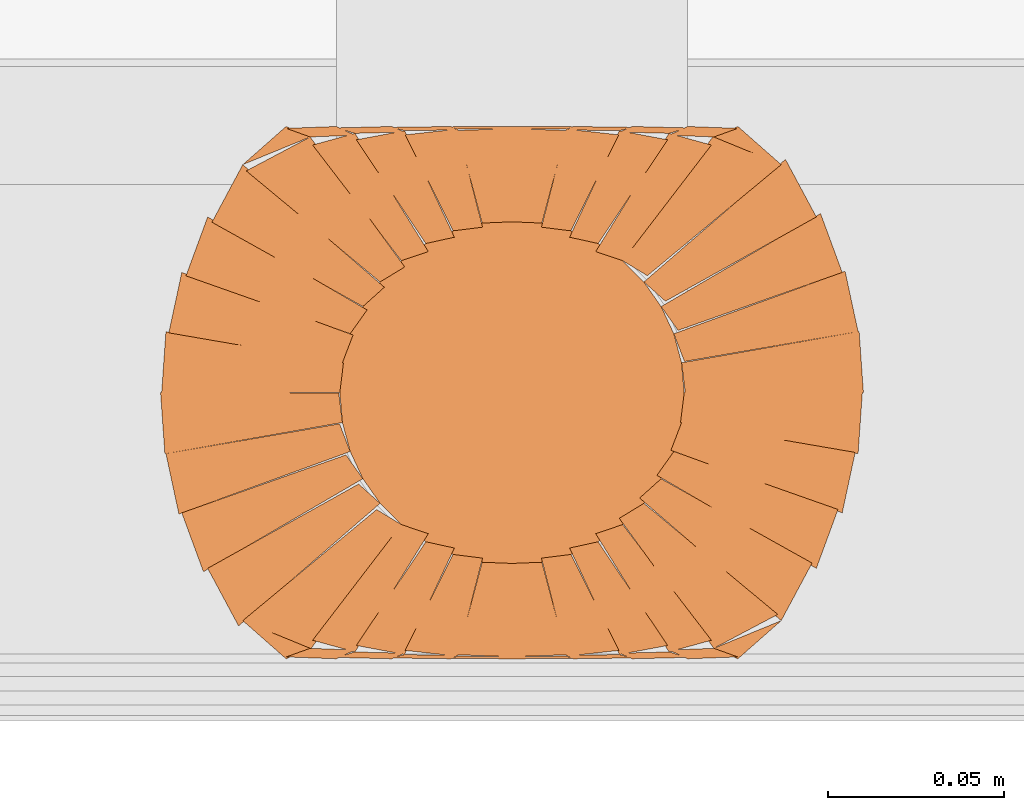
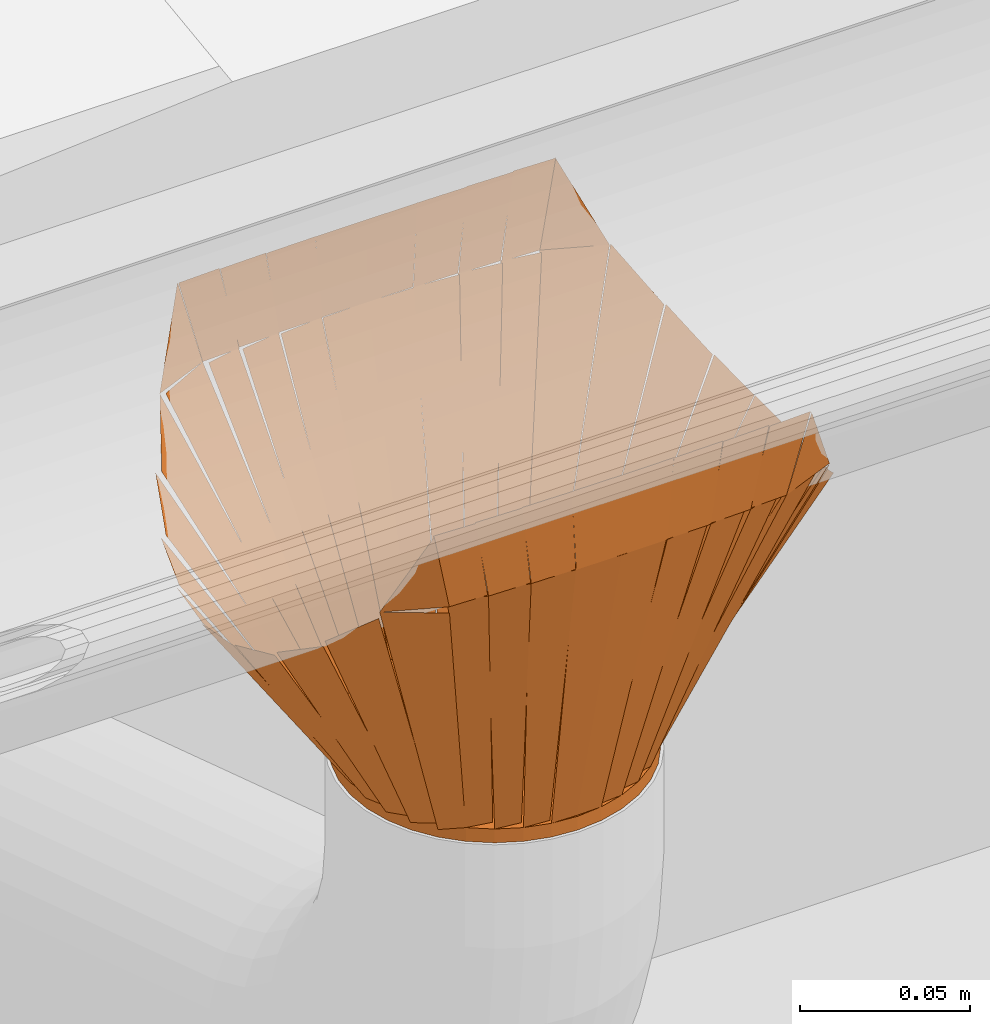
# One storey, part 23 of 43: 1 proxy.
"""IFC2X3 building model written with IfcOpenShell, lengths in millimetres."""

from ifc_helpers import new_model, si_unit, frame, origin_with_axes, place, context, project, spatial, faceted_brep, element, save


model = new_model("IFC2X3")

# Units and contexts
model_context = context("Model", 3, world=origin_with_axes())
ifc_project = project(units=[si_unit("LENGTHUNIT", "METRE", prefix="MILLI")], contexts=[model_context])

# Site, building, storey
site_placement = place(None, origin_with_axes())
site = spatial("IfcSite", under=ifc_project, at=site_placement, Name="Site", CompositionType="ELEMENT")
building_placement = place(site_placement, origin_with_axes())
building = spatial("IfcBuilding", under=site, at=building_placement, Name="?", CompositionType="ELEMENT")
storey_placement = place(building_placement, frame((0.0, 0.0, 5938.0), z_axis=(0.0, 0.0, 1.0), x_axis=(1.0, 0.0, 0.0)))
storey = spatial("IfcBuildingStorey", under=building, at=storey_placement, Name="Dachgeschoß", CompositionType="ELEMENT", Elevation=5938.0)

# Proxy
proxy_placement = place(None, origin_with_axes())
element("IfcBuildingElementProxy", 1, at=proxy_placement, inside=storey, Name="Dach04_Sump#002", ObjectType="sump", CompositionType="ELEMENT", context=model_context, shape_type="Brep", body=[
    faceted_brep([(156.0, -6994.009765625, 6505.79541015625), (206.699097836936, -6993.96774953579, 6580.94059993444), (205.480801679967, -7011.37456599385, 6582.73760906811), (154.954696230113, -7002.47654971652, 6505.99840097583), (155.255599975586, -7002.51904296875, 6505.79541015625), (204.66451477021, -7011.02260897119, 6583.29667832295), (200.969299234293, -7028.21224305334, 6588.73760764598), (152.228615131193, -7010.41680896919, 6506.3544809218), (153.044906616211, -7010.76904296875, 6505.79541015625), (199.767388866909, -7027.25000875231, 6589.59692785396), (193.602507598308, -7044.01004264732, 6599.73761331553), (148.233287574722, -7017.54800840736, 6506.65472506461), (149.435195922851, -7018.509765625, 6505.79541015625), (192.391752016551, -7042.50609625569, 6600.66615574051), (183.604397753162, -7058.88856568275, 6615.73760759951), (143.325449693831, -7024.00269628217, 6506.72395792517), (144.536193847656, -7025.5068359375, 6505.79541015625), (182.628120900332, -7057.11947794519, 6616.57824706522), (164.424893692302, -7066.76293508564, 6615.73760700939), (137.520320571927, -7029.77687912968, 6506.63605021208), (138.496597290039, -7031.54638671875, 6505.79541015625), (163.738444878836, -7064.47369281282, 6616.57445092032), (151.668697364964, -7067.78708786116, 6615.73761076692), (130.813544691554, -7034.15619170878, 6506.63225038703), (131.5, -7036.4453125, 6505.79541015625), (151.304500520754, -7065.96330484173, 6616.29008187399), (137.555199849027, -7068.54171179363, 6615.7376122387), (123.394801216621, -7038.2313055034, 6506.347879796), (123.759002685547, -7040.0546875, 6505.79541015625), (137.421128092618, -7067.37303624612, 6616.04372756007), (122.513302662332, -7069.00358695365, 6615.73760805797), (115.374727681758, -7041.09703670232, 6506.10152966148), (115.508796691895, -7042.265625, 6505.79541015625), (122.498250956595, -7068.60223884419, 6615.83467810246), (106.99999682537, -7069.1594249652, 6615.7376074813), (106.984951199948, -7042.60843885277, 6505.89248076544), (98.4912033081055, -7042.265625, 6505.79541015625), (107.015048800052, -7042.60843885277, 6505.89248076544), (107.00000317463, -7069.1594249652, 6615.7376074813), (91.5017490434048, -7068.60223884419, 6615.83467810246), (90.240997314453, -7040.0546875, 6505.79541015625), (98.6252723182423, -7041.09703670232, 6506.10152966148), (91.4866973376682, -7069.00358695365, 6615.73760805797), (76.5788719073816, -7067.37303624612, 6616.04372756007), (82.5000000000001, -7036.4453125, 6505.79541015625), (90.6051987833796, -7038.2313055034, 6506.347879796), (76.4448001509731, -7068.54171179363, 6615.73761223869), (62.6954994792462, -7065.96330484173, 6616.29008187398), (75.5034027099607, -7031.54638671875, 6505.79541015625), (83.1864553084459, -7034.15619170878, 6506.63225038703), (62.3313026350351, -7067.78708786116, 6615.73761076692), (50.2615551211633, -7064.47369281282, 6616.57445092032), (75.5034027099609, -7031.54638671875, 6505.79541015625), (48.5988295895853, -7068.53244267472, 6614.89696695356), (30.3956023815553, -7058.88898553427, 6615.73760700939), (68.4875294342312, -7027.27634352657, 6504.95477010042), (69.463798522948, -7025.5068359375, 6505.79541015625), (29.1848504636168, -7060.39270533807, 6614.80905983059), (20.3974962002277, -7044.01023591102, 6599.73760797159), (63.3540522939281, -7020.01390528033, 6504.86686238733), (64.564796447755, -7018.509765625, 6505.79541015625), (19.195576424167, -7044.97179986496, 6598.87829840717), (13.0306951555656, -7028.21176596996, 6588.7376129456), (59.7531774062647, -7011.7308001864, 6504.93609524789), (60.9551010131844, -7010.76904296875, 6505.79541015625), (12.2144108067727, -7028.56448226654, 6588.17853498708), (8.51920371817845, -7011.37494297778, 6582.73761153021), (57.9281083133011, -7002.87128188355, 6505.23633342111), (58.7444000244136, -7002.51904296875, 6505.79541015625), (8.21830083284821, -7011.41715820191, 6582.5346224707), (7.00000156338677, -6994.01024322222, 6580.73761121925), (57.6990993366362, -6994.0522587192, 6505.59242137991), (58.0, -6994.009765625, 6505.79541015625), (7.30089679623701, -6994.0517809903, 6580.94059459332), (8.51919943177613, -6976.64496540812, 6582.73760796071), (59.0452974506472, -6985.54308088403, 6505.99839671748), (58.7444000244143, -6985.50146484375, 6505.79541015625), (9.3355027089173, -6976.99780535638, 6583.29669568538), (13.030699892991, -6959.80816491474, 6588.7376124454), (61.7714030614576, -6977.60360535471, 6506.35449322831), (60.9551010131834, -6977.2509765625, 6505.79541015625), (14.2326431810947, -6960.77001649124, 6589.59694077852), (20.397401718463, -6944.00997522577, 6599.73761296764), (65.7666422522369, -6970.47201716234, 6506.65473829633), (64.564697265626, -6969.509765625, 6505.79541015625), (21.608126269, -6945.5134274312, 6600.66614947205), (30.3954982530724, -6929.13106388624, 6615.73761097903), (70.6745257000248, -6964.01682850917, 6506.72394876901), (69.4637985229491, -6962.51318359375, 6505.79541015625), (31.3717667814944, -6930.90061803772, 6616.578238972), (49.5749986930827, -6921.25708315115, 6615.737607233), (76.4796664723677, -6958.24311841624, 6506.63604189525), (75.5034027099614, -6956.4736328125, 6505.79541015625), (50.2614547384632, -6923.54633724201, 6616.5744549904), (62.3313025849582, -6920.23293151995, 6615.73761133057), (83.18645505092, -6953.86383842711, 6506.63225384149), (82.5, -6951.57470703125, 6505.79541015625), (62.6954994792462, -6922.05671468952, 6616.29008187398), (76.4448001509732, -6919.47830773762, 6615.7376122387), (90.6051987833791, -6949.78871402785, 6506.347879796), (90.2409973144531, -6947.96533203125, 6505.79541015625), (76.5788719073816, -6920.64698328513, 6616.04372756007), (91.4866973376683, -6919.0164325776, 6615.73760805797), (98.6252723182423, -6946.92298282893, 6506.10152966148), (98.4912033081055, -6945.75439453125, 6505.79541015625), (91.5017490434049, -6919.41778068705, 6615.83467810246), (107.00000317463, -6918.86059456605, 6615.7376074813), (107.015048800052, -6945.41158067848, 6505.89248076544), (115.508697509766, -6945.75439453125, 6505.79541015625), (106.984951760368, -6945.41158169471, 6505.89248102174), (106.999997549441, -6918.86059390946, 6615.73760773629), (122.498151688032, -6919.41778105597, 6615.83467859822), (123.759002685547, -6947.96533203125, 6505.79541015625), (115.37462895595, -6946.9229761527, 6506.10152780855), (122.513202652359, -6919.01643257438, 6615.73761216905), (137.421029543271, -6920.64697661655, 6616.04372982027), (131.5, -6951.57470703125, 6505.79541015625), (123.394819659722, -6949.78876123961, 6506.34786134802), (137.555100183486, -6919.47840597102, 6615.73761234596), (151.30442050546, -6922.05676005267, 6616.29006353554), (138.496597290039, -6956.4736328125, 6505.79541015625), (130.813519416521, -6953.86378505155, 6506.63227163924), (151.668597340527, -6920.23293253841, 6615.73760921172), (163.738419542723, -6923.5463849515, 6616.57447067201), (138.496597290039, -6956.4736328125, 6505.79541015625), (165.401170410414, -6919.48757685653, 6614.89696695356), (183.604397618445, -6929.13103399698, 6615.73760700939), (145.512470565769, -6960.74367600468, 6504.95477010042), (144.536193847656, -6962.51318359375, 6505.79541015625), (184.815146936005, -6927.62729514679, 6614.80905577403), (193.602493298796, -6944.00968397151, 6599.73761287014), (150.645948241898, -6968.00609461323, 6504.86685259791), (149.435195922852, -6969.509765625, 6505.79541015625), (194.804403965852, -6943.04764707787, 6598.87830167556), (200.969196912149, -6959.80766642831, 6588.73760747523), (154.246803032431, -6976.28874634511, 6504.93610471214), (153.044906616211, -6977.2509765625, 6505.79541015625), (201.785511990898, -6959.45543169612, 6588.17852841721), (205.48080853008, -6976.64507657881, 6582.73761216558), (156.071909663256, -6985.14873100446, 6505.23632639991), (155.255599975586, -6985.5009765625, 6505.79541015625), (205.781699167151, -6976.60286132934, 6582.5346224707), (206.999998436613, -6994.00977630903, 6580.73761121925), (156.300900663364, -6993.96776081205, 6505.59242137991), (164.424896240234, -7066.7626953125, 6615.7373046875), (183.604396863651, -7058.88879484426, 6615.7373046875), (171.278796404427, -7069.74999532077, 6645.00730393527), (157.0, -7069.75, 6645.00732421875), (151.648409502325, -7067.25130511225, 6615.78683963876), (164.424899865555, -7066.76269994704, 6615.73732385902), (171.258509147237, -7069.21440517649, 6645.05683999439), (141.201995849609, -7069.75, 6645.00732421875), (137.545178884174, -7068.14458950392, 6615.76036905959), (151.668695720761, -7067.78689999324, 6615.7373240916), (156.989978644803, -7069.35298953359, 6645.03036918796), (124.364799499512, -7069.75, 6645.00732421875), (122.509765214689, -7068.76003104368, 6615.74579519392), (137.555199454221, -7068.54160002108, 6615.73732400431), (141.198465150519, -7069.506231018, 6645.01579540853), (107.0, -7069.75, 6645.00732421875), (106.999611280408, -7069.0772640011, 6615.73921185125), (122.513299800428, -7069.00380000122, 6615.73732392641), (124.364411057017, -7069.66786399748, 6645.00921214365), (91.486701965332, -7069.00390625, 6615.7373046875), (107.000390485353, -7069.07737024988, 6615.73919261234), (107.00000176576, -7069.75010624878, 6645.00730497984), (89.6355907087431, -7069.66797024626, 6645.00919290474), (76.4448013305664, -7068.54150390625, 6615.7373046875), (91.490235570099, -7068.75993492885, 6615.74577587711), (89.6352012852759, -7069.74990388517, 6645.00730490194), (72.8015356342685, -7069.50613490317, 6645.01577609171), (62.331298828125, -7067.787109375, 6615.7373046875), (76.4548156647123, -7068.14479888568, 6615.76034965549), (72.7979986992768, -7069.75020938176, 6645.00730481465), (57.0100159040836, -7069.35319891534, 6645.03034978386), (49.5750999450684, -7066.7626953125, 6615.7373046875), (62.3515903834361, -7067.25130223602, 6615.78682028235), (56.9999998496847, -7069.74999529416, 6645.00730495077), (42.741590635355, -7069.21440225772, 6645.05682054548), (30.3955993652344, -7058.888671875, 6615.7373046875), (49.5750999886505, -7066.76257234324, 6615.7373046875), (42.7212998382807, -7069.74987219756, 6645.00730429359), (49.5750007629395, -6921.25732421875, 6615.7373046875), (30.3955008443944, -6929.13132437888, 6615.7373046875), (42.7212008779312, -6918.27002445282, 6645.00730486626), (57.0, -6918.27001953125, 6645.00732421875), (62.3515903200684, -6920.76871232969, 6615.78683965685), (49.5750001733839, -6921.25731946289, 6615.73732411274), (42.7414907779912, -6918.80561239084, 6645.05683976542), (72.7979965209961, -6918.27001953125, 6645.00732421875), (76.4548134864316, -6919.87543002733, 6615.76036905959), (62.3312966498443, -6920.23311953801, 6615.7373240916), (57.0100137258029, -6918.66702999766, 6645.03036918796), (89.6351013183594, -6918.27001953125, 6645.00732421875), (91.4902356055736, -6919.25998782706, 6615.74579514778), (76.4448013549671, -6919.47841953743, 6615.73732397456), (72.8015356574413, -6918.51378783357, 6645.01579539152), (107.0, -6918.27001953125, 6645.00732421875), (107.000388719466, -6918.94275574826, 6615.73921185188), (91.486700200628, -6919.01621952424, 6615.73732392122), (89.6354889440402, -6918.35215575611, 6645.00921214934), (122.513198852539, -6919.01611328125, 6615.7373046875), (106.999610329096, -6918.94264953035, 6615.73919261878), (106.999999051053, -6918.26991325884, 6645.00730498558), (124.364410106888, -6918.35204951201, 6645.00919291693), (137.555099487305, -6919.478515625, 6615.7373046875), (122.50966524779, -6919.26008460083, 6615.74577588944), (124.3647995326, -6918.27011567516, 6645.0073049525), (141.198465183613, -6918.51388465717, 6645.01577615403), (151.668594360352, -6920.23291015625, 6615.7373046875), (137.545077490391, -6919.87521945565, 6615.76034961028), (141.201994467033, -6918.26981014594, 6645.00730491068), (156.989877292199, -6918.66681942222, 6645.03034983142), (164.424896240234, -6921.25732421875, 6615.7373046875), (151.64830609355, -6920.76871708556, 6615.7868202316), (156.999896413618, -6918.27002428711, 6645.00730479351), (171.258405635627, -6918.8056171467, 6645.05682034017), (183.604400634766, -6929.13134765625, 6615.7373046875), (164.424900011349, -6921.25744718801, 6615.7373046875), (171.278700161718, -6918.27014733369, 6645.00730429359), (156.0, -6994.009765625, 6500.8251953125), (156.0, -6994.009765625, 6505.7951953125), (155.25559997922, -7002.518565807, 6505.7951953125), (155.25559997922, -7002.518565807, 6500.8251953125), (155.255599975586, -7002.51904296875, 6500.8251953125), (155.255599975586, -7002.51904296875, 6505.7951953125), (153.044900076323, -7010.7692429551, 6505.7951953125), (153.044900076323, -7010.7692429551, 6500.8251953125), (153.044906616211, -7010.76904296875, 6500.8251953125), (153.044906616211, -7010.76904296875, 6505.7951953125), (149.435206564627, -7018.51004288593, 6505.7951953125), (149.435206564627, -7018.51004288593, 6500.8251953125), (149.435195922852, -7018.509765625, 6500.8251953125), (149.435195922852, -7018.509765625, 6505.7951953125), (144.536195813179, -7025.50636547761, 6505.7951953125), (144.536195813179, -7025.50636547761, 6500.8251953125), (144.536193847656, -7025.5068359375, 6500.8251953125), (144.536193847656, -7025.5068359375, 6505.7951953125), (138.49659395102, -7031.54643583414, 6505.7951953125), (138.49659395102, -7031.54643583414, 6500.8251953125), (138.496597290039, -7031.54638671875, 6500.8251953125), (138.496597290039, -7031.54638671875, 6505.7951953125), (131.499997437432, -7036.44538682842, 6505.7951953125), (131.499997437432, -7036.44538682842, 6500.8251953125), (131.5, -7036.4453125, 6500.8251953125), (131.5, -7036.4453125, 6505.7951953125), (123.759000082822, -7040.05501255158, 6505.7951953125), (123.759000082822, -7040.05501255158, 6500.8251953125), (123.759002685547, -7040.0546875, 6500.8251953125), (123.759002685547, -7040.0546875, 6505.7951953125), (115.508802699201, -7042.26538739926, 6505.7951953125), (115.508802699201, -7042.26538739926, 6500.8251953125), (115.508796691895, -7042.265625, 6500.8251953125), (115.508796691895, -7042.265625, 6505.7951953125), (106.999996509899, -7043.01002502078, 6505.7951953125), (106.999996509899, -7043.01002502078, 6500.8251953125), (107.0, -7043.009765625, 6500.8251953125), (107.0, -7043.009765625, 6505.7951953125), (98.4911998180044, -7042.26536560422, 6505.7951953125), (98.4911998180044, -7042.26536560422, 6500.8251953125), (98.4912033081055, -7042.265625, 6500.8251953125), (98.4912033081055, -7042.265625, 6505.7951953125), (90.2410033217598, -7040.05492510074, 6505.7951953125), (90.2410033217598, -7040.05492510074, 6500.8251953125), (90.2409973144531, -7040.0546875, 6500.8251953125), (90.2409973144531, -7040.0546875, 6505.7951953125), (82.4999973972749, -7036.44498744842, 6505.7951953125), (82.4999973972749, -7036.44498744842, 6500.8251953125), (82.5, -7036.4453125, 6500.8251953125), (82.5, -7036.4453125, 6505.7951953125), (75.5034001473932, -7031.54631239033, 6505.7951953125), (75.5034001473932, -7031.54631239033, 6500.8251953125), (75.5034027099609, -7031.54638671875, 6500.8251953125), (75.5034027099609, -7031.54638671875, 6505.7951953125), (69.4638028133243, -7025.50678682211, 6505.7951953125), (69.4638028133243, -7025.50678682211, 6500.8251953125), (69.4637985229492, -7025.5068359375, 6500.8251953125), (69.4637985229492, -7025.5068359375, 6505.7951953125), (64.5647984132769, -7018.51023608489, 6505.7951953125), (64.5647984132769, -7018.51023608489, 6500.8251953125), (64.5647964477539, -7018.509765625, 6500.8251953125), (64.5647964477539, -7018.509765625, 6505.7951953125), (60.9550963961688, -7010.76876570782, 6505.7951953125), (60.9550963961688, -7010.76876570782, 6500.8251953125), (60.9551010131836, -7010.76904296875, 6500.8251953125), (60.9551010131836, -7010.76904296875, 6505.7951953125), (58.7444011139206, -7002.5188429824, 6505.7951953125), (58.7444011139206, -7002.5188429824, 6500.8251953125), (58.7444000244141, -7002.51904296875, 6500.8251953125), (58.7444000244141, -7002.51904296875, 6505.7951953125), (58.0000000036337, -6994.01024278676, 6505.7951953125), (58.0000000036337, -6994.01024278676, 6500.8251953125), (58.0, -6994.009765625, 6500.8251953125), (58.0, -6994.009765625, 6505.7951953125), (58.7443999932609, -6985.50106570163, 6505.7951953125), (58.7443999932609, -6985.50106570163, 6500.8251953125), (58.7444000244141, -6985.50146484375, 6500.8251953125), (58.7444000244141, -6985.50146484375, 6505.7951953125), (60.9550999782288, -6977.25116493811, 6505.7951953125), (60.9550999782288, -6977.25116493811, 6500.8251953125), (60.9551010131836, -6977.2509765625, 6500.8251953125), (60.9551010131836, -6977.2509765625, 6505.7951953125), (64.5647009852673, -6969.509976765, 6505.7951953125), (64.5647009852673, -6969.509976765, 6500.8251953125), (64.5646972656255, -6969.509765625, 6500.8251953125), (64.5646972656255, -6969.509765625, 6505.7951953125), (69.4637974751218, -6962.51316562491, 6505.7951953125), (69.4637974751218, -6962.51316562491, 6500.8251953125), (69.4637985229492, -6962.51318359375, 6500.8251953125), (69.4637985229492, -6962.51318359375, 6505.7951953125), (75.5033984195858, -6956.47358369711, 6505.7951953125), (75.5033984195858, -6956.47358369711, 6500.8251953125), (75.5034027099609, -6956.4736328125, 6500.8251953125), (75.5034027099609, -6956.4736328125, 6505.7951953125), (82.5000025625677, -6951.57463270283, 6505.7951953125), (82.5000025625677, -6951.57463270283, 6500.8251953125), (82.5, -6951.57470703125, 6500.8251953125), (82.5, -6951.57470703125, 6505.7951953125), (90.2409999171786, -6947.96500697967, 6505.7951953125), (90.2409999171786, -6947.96500697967, 6500.8251953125), (90.2409973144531, -6947.96533203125, 6500.8251953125), (90.2409973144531, -6947.96533203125, 6505.7951953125), (98.4911973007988, -6945.75463213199, 6505.7951953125), (98.4911973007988, -6945.75463213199, 6500.8251953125), (98.4912033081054, -6945.75439453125, 6500.8251953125), (98.4912033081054, -6945.75439453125, 6505.7951953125), (107.000003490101, -6945.00999451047, 6505.7951953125), (107.000003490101, -6945.00999451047, 6500.8251953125), (107.0, -6945.009765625, 6500.8251953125), (107.0, -6945.009765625, 6505.7951953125), (115.508699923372, -6945.75416561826, 6505.7951953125), (115.508699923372, -6945.75416561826, 6500.8251953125), (115.508697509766, -6945.75439453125, 6500.8251953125), (115.50868500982, -6945.75444118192, 6505.79519531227), (123.758997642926, -6947.96509455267, 6505.79519531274), (123.758985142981, -6947.96504120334, 6500.82519531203), (123.759002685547, -6947.96484375, 6500.8251953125), (123.759021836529, -6947.96490268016, 6505.79519531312), (131.500002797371, -6951.57454363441, 6505.79519531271), (131.500021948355, -6951.57450256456, 6500.82519531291), (131.5, -6951.57470703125, 6500.8251953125), (131.5, -6951.57470703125, 6505.7951953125), (138.496600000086, -6956.47380724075, 6505.7951953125), (138.496600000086, -6956.47380724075, 6500.8251953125), (138.496597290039, -6956.4736328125, 6500.8251953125), (138.496597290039, -6956.4736328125, 6505.7951953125), (144.536197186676, -6962.51323270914, 6505.7951953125), (144.536197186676, -6962.51323270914, 6500.8251953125), (144.536193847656, -6962.51318359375, 6500.8251953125), (144.536193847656, -6962.51318359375, 6505.7951953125), (149.435193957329, -6969.50978344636, 6505.7951953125), (149.435193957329, -6969.50978344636, 6500.8251953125), (149.435195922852, -6969.509765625, 6500.8251953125), (149.435195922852, -6969.509765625, 6505.7951953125), (153.044895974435, -6977.25076554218, 6505.7951953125), (153.044895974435, -6977.25076554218, 6500.8251953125), (153.044906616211, -6977.2509765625, 6500.8251953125), (153.044906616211, -6977.2509765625, 6505.7951953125), (155.255606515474, -6985.50117654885, 6505.7951953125), (155.255606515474, -6985.50117654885, 6500.8251953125), (155.255599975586, -6985.5009765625, 6500.8251953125), (155.255599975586, -6985.5009765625, 6505.7951953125), (155.999999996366, -6994.00977674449, 6505.7951953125), (155.999999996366, -6994.00977674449, 6500.8251953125), (153.044906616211, -6977.2509765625, 6500.8251953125), (156.000006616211, -6994.0099765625, 6500.8251953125), (144.536206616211, -6962.5133765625, 6500.8251953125), (149.435206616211, -6969.5099765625, 6500.8251953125), (144.536193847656, -6962.51318359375, 6500.8251953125), (115.508693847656, -6945.75418359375, 6500.8251953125), (131.499993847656, -6951.57448359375, 6500.8251953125), (138.496593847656, -6956.47358359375, 6500.8251953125), (131.5, -6951.57470703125, 6500.8251953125), (115.5087, -6945.75440703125, 6500.8251953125), (123.759, -6947.96500703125, 6500.8251953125), (115.508697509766, -6945.75439453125, 6500.8251953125), (82.4999975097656, -6951.57479453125, 6500.8251953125), (98.4911975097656, -6945.75439453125, 6500.8251953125), (106.999997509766, -6945.00999453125, 6500.8251953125), (98.4912033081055, -6945.75439453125, 6500.8251953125), (82.5000033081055, -6951.57479453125, 6500.8251953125), (90.2410033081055, -6947.96509453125, 6500.8251953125), (82.5, -6951.57470703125, 6500.8251953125), (60.9551, -6977.25090703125, 6500.8251953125), (69.4638, -6962.51330703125, 6500.8251953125), (75.5034, -6956.47370703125, 6500.8251953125), (69.4637985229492, -6962.51318359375, 6500.8251953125), (60.9550985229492, -6977.25078359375, 6500.8251953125), (64.5646985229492, -6969.50978359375, 6500.8251953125), (115.508697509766, -6945.75439453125, 6500.8251953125), (144.536197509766, -7025.50659453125, 6500.8251953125), (60.9550975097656, -6977.25099453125, 6500.8251953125), (82.4999975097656, -6951.57479453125, 6500.8251953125), (60.9551010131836, -6977.2509765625, 6500.8251953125), (60.9551010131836, -7010.7689765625, 6500.8251953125), (58.0000010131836, -6994.0099765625, 6500.8251953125), (58.7444010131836, -6985.5012765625, 6500.8251953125), (58.0, -6994.009765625, 6500.8251953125), (60.9551, -7010.768765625, 6500.8251953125), (58.7444, -7002.518565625, 6500.8251953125), (60.9551010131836, -7010.76904296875, 6500.8251953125), (82.5000010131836, -7036.44524296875, 6500.8251953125), (69.4638010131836, -7025.50664296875, 6500.8251953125), (64.5648010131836, -7018.51004296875, 6500.8251953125), (69.4637985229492, -7025.5068359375, 6500.8251953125), (82.4999985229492, -7036.4454359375, 6500.8251953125), (75.5033985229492, -7031.5464359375, 6500.8251953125), (60.9551010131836, -6977.2509765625, 6500.8251953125), (144.536201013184, -7025.5065765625, 6500.8251953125), (82.5000010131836, -7036.4451765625, 6500.8251953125), (60.9551010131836, -7010.7689765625, 6500.8251953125), (82.5, -7036.4453125, 6500.8251953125), (115.5088, -7042.2657125, 6500.8251953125), (98.4912, -7042.2657125, 6500.8251953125), (90.241, -7040.0550125, 6500.8251953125), (98.4912033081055, -7042.265625, 6500.8251953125), (115.508803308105, -7042.265625, 6500.8251953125), (107.000003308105, -7043.010025, 6500.8251953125), (115.508796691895, -7042.265625, 6500.8251953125), (144.536196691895, -7025.506625, 6500.8251953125), (131.499996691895, -7036.445225, 6500.8251953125), (123.758996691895, -7040.054925, 6500.8251953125), (131.5, -7036.4453125, 6500.8251953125), (144.5362, -7025.5067125, 6500.8251953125), (138.4966, -7031.5463125, 6500.8251953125), (82.5, -7036.4453125, 6500.8251953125), (144.5362, -7025.5067125, 6500.8251953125), (115.5088, -7042.2657125, 6500.8251953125), (144.536193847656, -7025.5068359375, 6500.8251953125), (155.999993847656, -6994.0102359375, 6500.8251953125), (153.044893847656, -7010.7692359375, 6500.8251953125), (149.435193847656, -7018.5102359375, 6500.8251953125), (153.044906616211, -7010.76904296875, 6500.8251953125), (156.000006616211, -6994.01004296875, 6500.8251953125), (155.255606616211, -7002.51884296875, 6500.8251953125), (115.508697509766, -6945.75439453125, 6500.8251953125), (144.536197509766, -6962.51339453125, 6500.8251953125), (155.999997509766, -6994.00999453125, 6500.8251953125), (144.536197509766, -7025.50659453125, 6500.8251953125), (155.255599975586, -6985.5009765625, 6500.8251953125), (155.999999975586, -6994.0097765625, 6500.8251953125), (153.044899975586, -6977.2507765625, 6500.8251953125), (155.255599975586, -7002.51904296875, 6505.79541015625), (155.255599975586, -6985.50144296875, 6505.79541015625), (149.435199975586, -7018.51024296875, 6505.79541015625), (153.044899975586, -7010.76924296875, 6505.79541015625), (149.435195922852, -7018.509765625, 6505.79541015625), (123.758995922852, -7040.054665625, 6505.79541015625), (138.496595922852, -7031.545965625, 6505.79541015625), (144.536195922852, -7025.506365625, 6505.79541015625), (138.496597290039, -7031.54638671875, 6505.79541015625), (123.758997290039, -7040.05508671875, 6505.79541015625), (131.499997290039, -7036.44538671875, 6505.79541015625), (123.759002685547, -7040.0546875, 6505.79541015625), (90.2410026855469, -7040.0546875, 6505.79541015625), (107.000002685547, -7043.0097875, 6505.79541015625), (115.508802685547, -7042.2653875, 6505.79541015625), (107.0, -7043.009765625, 6505.79541015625), (90.241, -7040.054665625, 6505.79541015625), (98.4912, -7042.265365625, 6505.79541015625), (90.2409973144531, -7040.0546875, 6505.79541015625), (64.5647973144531, -7018.5097875, 6505.79541015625), (75.5033973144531, -7031.5459875, 6505.79541015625), (82.4999973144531, -7036.4449875, 6505.79541015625), (75.5034027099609, -7031.54638671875, 6505.79541015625), (64.5648027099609, -7018.51018671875, 6505.79541015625), (69.4638027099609, -7025.50678671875, 6505.79541015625), (123.759002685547, -7040.0546875, 6505.79541015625), (138.496602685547, -6956.4735875, 6505.79541015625), (64.5648026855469, -7018.5097875, 6505.79541015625), (90.2410026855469, -7040.0546875, 6505.79541015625), (64.5647964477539, -7018.509765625, 6505.79541015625), (58.7443964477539, -6985.501065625, 6505.79541015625), (58.7443964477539, -7002.518565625, 6505.79541015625), (60.9550964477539, -7010.768765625, 6505.79541015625), (58.7444000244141, -7002.51904296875, 6505.79541015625), (58.7444000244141, -6985.50154296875, 6505.79541015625), (58.0000000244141, -6994.01024296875, 6505.79541015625), (58.7444000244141, -6985.50146484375, 6505.79541015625), (75.5034000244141, -6956.47396484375, 6505.79541015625), (64.5647000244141, -6969.51016484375, 6505.79541015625), (60.9551000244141, -6977.25116484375, 6505.79541015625), (64.564697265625, -6969.509765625, 6505.79541015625), (75.503397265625, -6956.473565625, 6505.79541015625), (69.463797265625, -6962.513165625, 6505.79541015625), (64.5647964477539, -7018.509765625, 6505.79541015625), (138.496596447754, -6956.473565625, 6505.79541015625), (75.5033964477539, -6956.473565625, 6505.79541015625), (58.7443964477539, -6985.501065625, 6505.79541015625), (75.5034027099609, -6956.4736328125, 6505.79541015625), (107.000002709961, -6945.0098328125, 6505.79541015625), (90.2410027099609, -6947.9649328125, 6505.79541015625), (82.5000027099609, -6951.5746328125, 6505.79541015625), (90.2409973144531, -6947.96533203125, 6505.79541015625), (106.999997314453, -6945.01023203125, 6505.79541015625), (98.4911973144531, -6945.75463203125, 6505.79541015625), (107.0, -6945.009765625, 6505.79541015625), (138.4966, -6956.473565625, 6505.79541015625), (123.759, -6947.964865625, 6505.79541015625), (115.5087, -6945.754165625, 6505.79541015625), (123.759002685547, -6947.96533203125, 6505.79541015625), (138.496602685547, -6956.47403203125, 6505.79541015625), (131.500002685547, -6951.57493203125, 6505.79541015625), (75.5034027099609, -6956.4736328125, 6505.79541015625), (138.496602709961, -6956.4736328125, 6505.79541015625), (107.000002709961, -6945.0098328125, 6505.79541015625), (138.496597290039, -6956.4736328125, 6505.79541015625), (155.255597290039, -6985.5010328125, 6505.79541015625), (149.435197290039, -6969.5098328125, 6505.79541015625), (144.536197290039, -6962.5132328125, 6505.79541015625), (149.435195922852, -6969.509765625, 6505.79541015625), (155.255595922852, -6985.500965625, 6505.79541015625), (153.044895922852, -6977.250765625, 6505.79541015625), (123.759002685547, -7040.0546875, 6505.79541015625), (149.435202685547, -7018.5097875, 6505.79541015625), (155.255602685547, -6985.5009875, 6505.79541015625), (138.496602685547, -6956.4735875, 6505.79541015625), (156.0, -6994.009765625, 6505.79541015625), (155.2556, -6985.500965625, 6505.79541015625), (155.2556, -7002.518565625, 6505.79541015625)], [[[0, 1, 2, 3]], [[4, 5, 6, 7]], [[8, 9, 10, 11]], [[12, 13, 14, 15]], [[16, 17, 18, 19]], [[20, 21, 22, 23]], [[24, 25, 26, 27]], [[28, 29, 30, 31]], [[32, 33, 34, 35]], [[36, 37, 38, 39]], [[40, 41, 42, 43]], [[44, 45, 46, 47]], [[48, 49, 50, 51]], [[52, 53, 54, 55]], [[56, 57, 58, 59]], [[60, 61, 62, 63]], [[64, 65, 66, 67]], [[68, 69, 70, 71]], [[72, 73, 74, 75]], [[76, 77, 78, 79]], [[80, 81, 82, 83]], [[84, 85, 86, 87]], [[88, 89, 90, 91]], [[92, 93, 94, 95]], [[96, 97, 98, 99]], [[100, 101, 102, 103]], [[104, 105, 106, 107]], [[108, 109, 110, 111]], [[112, 113, 114, 115]], [[116, 117, 118, 119]], [[120, 121, 122, 123]], [[124, 125, 126, 127]], [[128, 129, 130, 131]], [[132, 133, 134, 135]], [[136, 137, 138, 139]], [[140, 141, 142, 143]], [[144, 145, 146]], [[147, 148, 149, 150]], [[151, 152, 153, 154]], [[155, 156, 157, 158]], [[159, 160, 161, 162]], [[163, 164, 165, 166]], [[167, 168, 169, 170]], [[171, 172, 173, 174]], [[175, 176, 177, 178]], [[179, 180, 181]], [[182, 183, 184]], [[185, 186, 187, 188]], [[189, 190, 191, 192]], [[193, 194, 195, 196]], [[197, 198, 199, 200]], [[201, 202, 203, 204]], [[205, 206, 207, 208]], [[209, 210, 211, 212]], [[213, 214, 215, 216]], [[217, 218, 219]], [[220, 221, 222, 223]], [[224, 225, 226, 227]], [[228, 229, 230, 231]], [[232, 233, 234, 235]], [[236, 237, 238, 239]], [[240, 241, 242, 243]], [[244, 245, 246, 247]], [[248, 249, 250, 251]], [[252, 253, 254, 255]], [[256, 257, 258, 259]], [[260, 261, 262, 263]], [[264, 265, 266, 267]], [[268, 269, 270, 271]], [[272, 273, 274, 275]], [[276, 277, 278, 279]], [[280, 281, 282, 283]], [[284, 285, 286, 287]], [[288, 289, 290, 291]], [[292, 293, 294, 295]], [[296, 297, 298, 299]], [[300, 301, 302, 303]], [[304, 305, 306, 307]], [[308, 309, 310, 311]], [[312, 313, 314, 315]], [[316, 317, 318, 319]], [[320, 321, 322, 323]], [[324, 325, 326, 327]], [[328, 329, 330, 331]], [[332, 333, 334, 335]], [[336, 337, 338, 339]], [[340, 341, 342, 343]], [[344, 345, 346, 347]], [[348, 349, 350, 351]], [[352, 353, 354, 355]], [[356, 357, 358, 359]], [[360, 361, 362, 363]], [[364, 365, 366, 367]], [[368, 369, 370, 371]], [[372, 373, 374]], [[375, 376, 377, 378]], [[379, 380, 381]], [[382, 383, 384, 385]], [[386, 387, 388]], [[389, 390, 391, 392]], [[393, 394, 395, 396]], [[397, 398, 399]], [[400, 401, 402, 403]], [[404, 405, 406]], [[407, 408, 409, 410]], [[411, 412, 413, 414]], [[415, 416, 417]], [[418, 419, 420, 421]], [[422, 423, 424]], [[425, 426, 427]], [[428, 429, 430, 431]], [[432, 433, 434]], [[435, 436, 437, 438]], [[439, 440, 441]], [[442, 443, 444, 445]], [[446, 447, 448, 449]], [[450, 451, 452]], [[453, 454, 455, 456]], [[457, 458, 459]], [[460, 461, 462, 463]], [[464, 465, 466]], [[467, 468, 469, 470]], [[471, 472, 473, 474]], [[475, 476, 477]], [[478, 479, 480, 481]], [[482, 483, 484]], [[485, 486, 487, 488]], [[489, 490, 491, 492]], [[493, 494, 495]], [[496, 497, 498, 499]], [[500, 501, 502]], [[503, 504, 505]], [[506, 507, 508, 509]], [[510, 511, 512]], [[513, 514, 515, 516]], [[517, 518, 519]]]),
])

save(model, "model.ifc")
